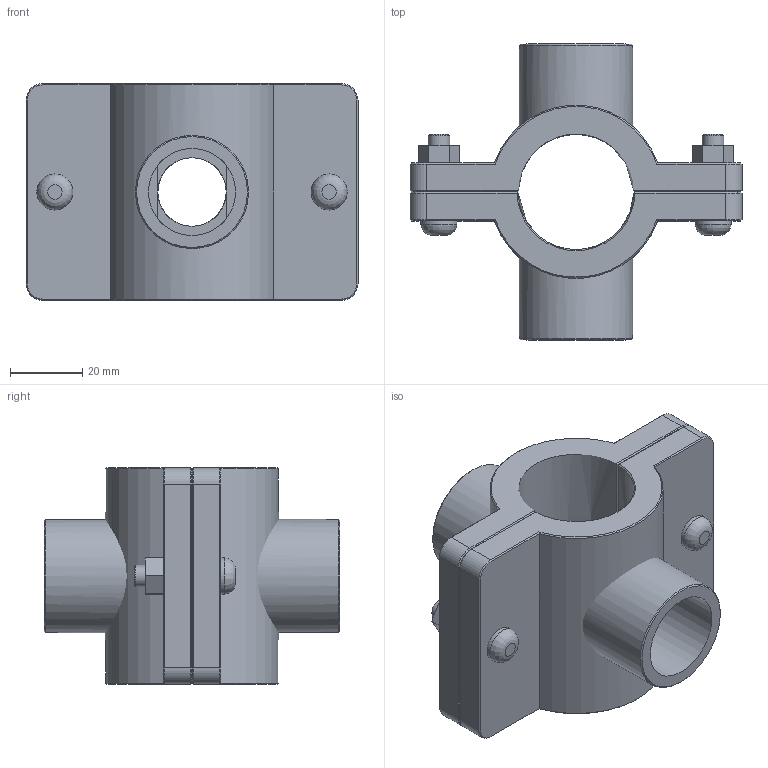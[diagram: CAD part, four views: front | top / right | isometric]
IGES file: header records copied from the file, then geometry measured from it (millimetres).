
Global section: file name: 161760032007_161860032007.ipt; native system: Autodesk Inventor 2015; preprocessor: unknown; author: KIM; date: 20170618.093643; units: millimetre
Bounding box: 92 x 82 x 60 mm (x, y, z)
Volume: 118636.6 mm3; surface area: 42229.7 mm2
Topology: 3 solids, 3 shells, 129 faces, 295 edges, 184 vertices
Faces by surface type: plane 68, cone 24, revolution 19, cylinder 18
Full cylindrical faces by diameter (mm): 6 x2, 10 x4, 31.352 x2
